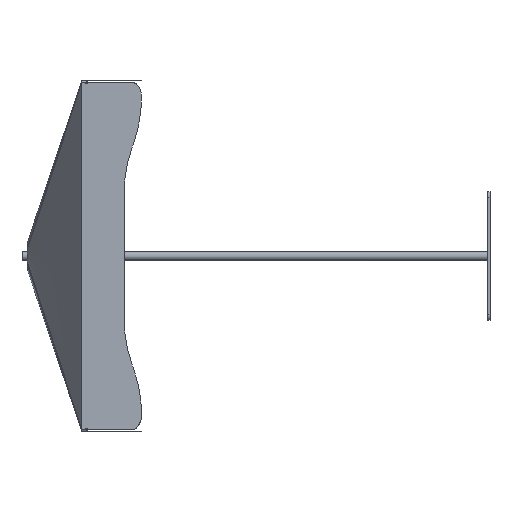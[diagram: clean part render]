
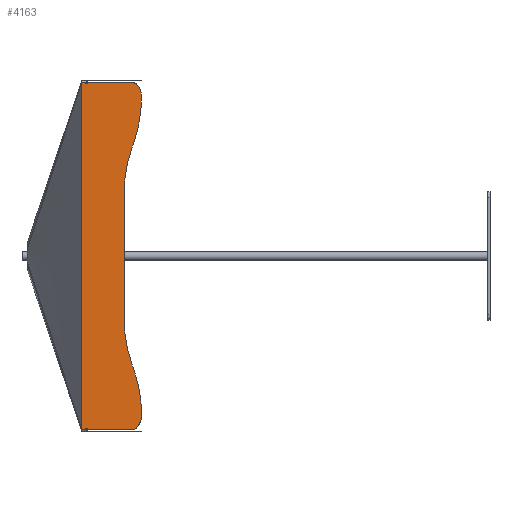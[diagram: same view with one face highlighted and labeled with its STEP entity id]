
A CAD part, left-side view. The second image highlights one B-rep face of the part: STEP entity #4163.
In plain terms, the highlighted planar face has unit normal (-1, 0, 0).
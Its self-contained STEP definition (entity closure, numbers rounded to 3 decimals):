
#50=B_SPLINE_CURVE_WITH_KNOTS('',3,(#6513,#6514,#6515,#6516,#6517,#6518,
#6519,#6520),.UNSPECIFIED.,.F.,.F.,(4,2,2,4),(0.,1.766,2.978,
4.028),.UNSPECIFIED.);
#64=B_SPLINE_CURVE_WITH_KNOTS('',3,(#6765,#6766,#6767,#6768,#6769,#6770,
#6771,#6772),.UNSPECIFIED.,.F.,.F.,(4,2,2,4),(0.,1.714,2.69,
3.756),.UNSPECIFIED.);
#384=FACE_OUTER_BOUND('',#619,.T.);
#619=EDGE_LOOP('',(#3140,#3141,#3142,#3143,#3144,#3145,#3146,#3147,#3148,
#3149,#3150,#3151,#3152,#3153));
#903=LINE('',#6784,#1230);
#906=LINE('',#6792,#1233);
#909=LINE('',#6800,#1236);
#911=LINE('',#6806,#1238);
#912=LINE('',#6808,#1239);
#913=LINE('',#6809,#1240);
#1230=VECTOR('',#5373,10.);
#1233=VECTOR('',#5382,10.);
#1236=VECTOR('',#5391,10.);
#1238=VECTOR('',#5399,10.);
#1239=VECTOR('',#5400,10.);
#1240=VECTOR('',#5401,10.);
#1469=CIRCLE('',#4536,99.818);
#1470=CIRCLE('',#4540,99.818);
#1471=CIRCLE('',#4542,795.04);
#1472=CIRCLE('',#4545,793.645);
#1473=CIRCLE('',#4548,793.636);
#1474=CIRCLE('',#4551,791.881);
#1714=VERTEX_POINT('',#6510);
#1715=VERTEX_POINT('',#6512);
#1717=VERTEX_POINT('',#6536);
#1729=VERTEX_POINT('',#6762);
#1730=VERTEX_POINT('',#6764);
#1731=VERTEX_POINT('',#6775);
#1732=VERTEX_POINT('',#6779);
#1733=VERTEX_POINT('',#6783);
#1734=VERTEX_POINT('',#6787);
#1735=VERTEX_POINT('',#6791);
#1736=VERTEX_POINT('',#6795);
#1737=VERTEX_POINT('',#6799);
#1738=VERTEX_POINT('',#6805);
#1739=VERTEX_POINT('',#6807);
#2199=EDGE_CURVE('',#1714,#1715,#50,.T.);
#2203=EDGE_CURVE('',#1714,#1717,#1469,.T.);
#2217=EDGE_CURVE('',#1729,#1730,#64,.T.);
#2219=EDGE_CURVE('',#1731,#1730,#1470,.T.);
#2221=EDGE_CURVE('',#1717,#1732,#1471,.T.);
#2223=EDGE_CURVE('',#1732,#1733,#903,.T.);
#2225=EDGE_CURVE('',#1733,#1734,#1472,.T.);
#2227=EDGE_CURVE('',#1734,#1735,#906,.T.);
#2229=EDGE_CURVE('',#1735,#1736,#1473,.T.);
#2231=EDGE_CURVE('',#1736,#1737,#909,.T.);
#2233=EDGE_CURVE('',#1737,#1731,#1474,.T.);
#2234=EDGE_CURVE('',#1738,#1729,#911,.T.);
#2235=EDGE_CURVE('',#1738,#1739,#912,.T.);
#2236=EDGE_CURVE('',#1739,#1715,#913,.F.);
#3140=ORIENTED_EDGE('',*,*,#2199,.F.);
#3141=ORIENTED_EDGE('',*,*,#2203,.T.);
#3142=ORIENTED_EDGE('',*,*,#2221,.T.);
#3143=ORIENTED_EDGE('',*,*,#2223,.T.);
#3144=ORIENTED_EDGE('',*,*,#2225,.T.);
#3145=ORIENTED_EDGE('',*,*,#2227,.T.);
#3146=ORIENTED_EDGE('',*,*,#2229,.T.);
#3147=ORIENTED_EDGE('',*,*,#2231,.T.);
#3148=ORIENTED_EDGE('',*,*,#2233,.T.);
#3149=ORIENTED_EDGE('',*,*,#2219,.T.);
#3150=ORIENTED_EDGE('',*,*,#2217,.F.);
#3151=ORIENTED_EDGE('',*,*,#2234,.F.);
#3152=ORIENTED_EDGE('',*,*,#2235,.T.);
#3153=ORIENTED_EDGE('',*,*,#2236,.T.);
#3709=PLANE('',#4552);
#4163=ADVANCED_FACE('',(#384),#3709,.T.);
#4536=AXIS2_PLACEMENT_3D('',#6538,#5355,#5356);
#4540=AXIS2_PLACEMENT_3D('',#6776,#5363,#5364);
#4542=AXIS2_PLACEMENT_3D('',#6780,#5368,#5369);
#4545=AXIS2_PLACEMENT_3D('',#6788,#5377,#5378);
#4548=AXIS2_PLACEMENT_3D('',#6796,#5386,#5387);
#4551=AXIS2_PLACEMENT_3D('',#6803,#5395,#5396);
#4552=AXIS2_PLACEMENT_3D('',#6804,#5397,#5398);
#5355=DIRECTION('center_axis',(-1.,0.,0.));
#5356=DIRECTION('ref_axis',(0.,-0.022,-1.));
#5363=DIRECTION('center_axis',(-1.,0.,0.));
#5364=DIRECTION('ref_axis',(0.,-0.999,0.045));
#5368=DIRECTION('center_axis',(-1.,0.,0.));
#5369=DIRECTION('ref_axis',(0.,-1.,0.));
#5373=DIRECTION('',(0.,0.339,0.941));
#5377=DIRECTION('center_axis',(1.,0.,0.));
#5378=DIRECTION('ref_axis',(0.,-1.,0.006));
#5382=DIRECTION('',(0.,0.,1.));
#5386=DIRECTION('center_axis',(1.,0.,0.));
#5387=DIRECTION('ref_axis',(0.,-0.945,-0.328));
#5391=DIRECTION('',(0.,-0.339,0.941));
#5395=DIRECTION('center_axis',(-1.,0.,0.));
#5396=DIRECTION('ref_axis',(0.,-0.945,-0.328));
#5397=DIRECTION('center_axis',(-1.,0.,0.));
#5398=DIRECTION('ref_axis',(0.,0.,
-1.));
#5399=DIRECTION('',(0.,-1.,0.));
#5400=DIRECTION('',(0.,0.,-1.));
#5401=DIRECTION('',(0.,1.,0.));
#6510=CARTESIAN_POINT('',(-1500.,-662.229,-972.485));
#6512=CARTESIAN_POINT('',(-1500.,-626.884,-989.121));
#6513=CARTESIAN_POINT('Ctrl Pts',(-1500.,-662.229,-972.485));
#6514=CARTESIAN_POINT('Ctrl Pts',(-1500.,-658.377,-976.937));
#6515=CARTESIAN_POINT('Ctrl Pts',(-1500.,-653.714,-980.673));
#6516=CARTESIAN_POINT('Ctrl Pts',(-1500.,-644.981,-985.394));
#6517=CARTESIAN_POINT('Ctrl Pts',(-1500.,-641.189,-986.874));
#6518=CARTESIAN_POINT('Ctrl Pts',(-1500.,-633.873,-988.672));
#6519=CARTESIAN_POINT('Ctrl Pts',(-1500.,-630.375,-989.121));
#6520=CARTESIAN_POINT('Ctrl Pts',(-1500.,-626.884,-989.121));
#6536=CARTESIAN_POINT('',(-1500.,-686.554,-907.183));
#6538=CARTESIAN_POINT('Origin',(-1500.,-586.736,-907.182));
#6762=CARTESIAN_POINT('',(-1500.,-626.817,989.084));
#6764=CARTESIAN_POINT('',(-1500.,-662.426,972.256));
#6765=CARTESIAN_POINT('Ctrl Pts',(-1500.,-626.817,989.084));
#6766=CARTESIAN_POINT('Ctrl Pts',(-1500.,-632.531,989.084));
#6767=CARTESIAN_POINT('Ctrl Pts',(-1500.,-638.542,987.888));
#6768=CARTESIAN_POINT('Ctrl Pts',(-1500.,-647.67,984.033));
#6769=CARTESIAN_POINT('Ctrl Pts',(-1500.,-650.824,982.265));
#6770=CARTESIAN_POINT('Ctrl Pts',(-1500.,-656.946,977.894));
#6771=CARTESIAN_POINT('Ctrl Pts',(-1500.,-659.867,975.233));
#6772=CARTESIAN_POINT('Ctrl Pts',(-1500.,-662.426,972.256));
#6775=CARTESIAN_POINT('',(-1500.,-686.455,911.632));
#6776=CARTESIAN_POINT('Origin',(-1500.,-586.736,907.182));
#6779=CARTESIAN_POINT('',(-1500.,-642.608,-646.509));
#6780=CARTESIAN_POINT('Origin',(-1500.,108.486,-907.176));
#6783=CARTESIAN_POINT('',(-1500.,-630.671,-613.34));
#6784=CARTESIAN_POINT('',(-1500.,-363.332,129.503));
#6787=CARTESIAN_POINT('',(-1500.,-586.648,-357.07));
#6788=CARTESIAN_POINT('Origin',(-1500.,-1380.28,-352.654));
#6791=CARTESIAN_POINT('',(-1500.,-586.648,357.069));
#6792=CARTESIAN_POINT('',(-1500.,-586.648,321.465));
#6795=CARTESIAN_POINT('',(-1500.,-630.671,613.34));
#6796=CARTESIAN_POINT('Origin',(-1500.,-1380.272,352.656));
#6799=CARTESIAN_POINT('',(-1500.,-642.607,646.508));
#6800=CARTESIAN_POINT('',(-1500.,-675.982,739.249));
#6803=CARTESIAN_POINT('Origin',(-1500.,105.409,906.408));
#6804=CARTESIAN_POINT('Origin',(-1500.,-346.6,1000.));
#6805=CARTESIAN_POINT('',(-1500.,-346.6,989.084));
#6806=CARTESIAN_POINT('',(-1500.,-346.6,989.084));
#6807=CARTESIAN_POINT('',(-1500.,-346.6,-989.121));
#6808=CARTESIAN_POINT('',(-1500.,-346.6,1000.));
#6809=CARTESIAN_POINT('',(-1500.,-346.6,-989.121));
